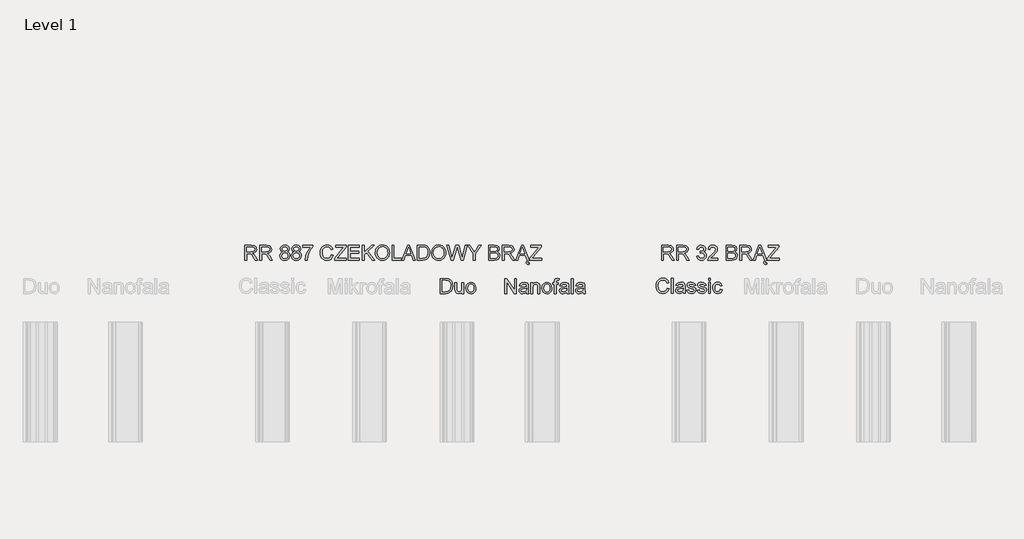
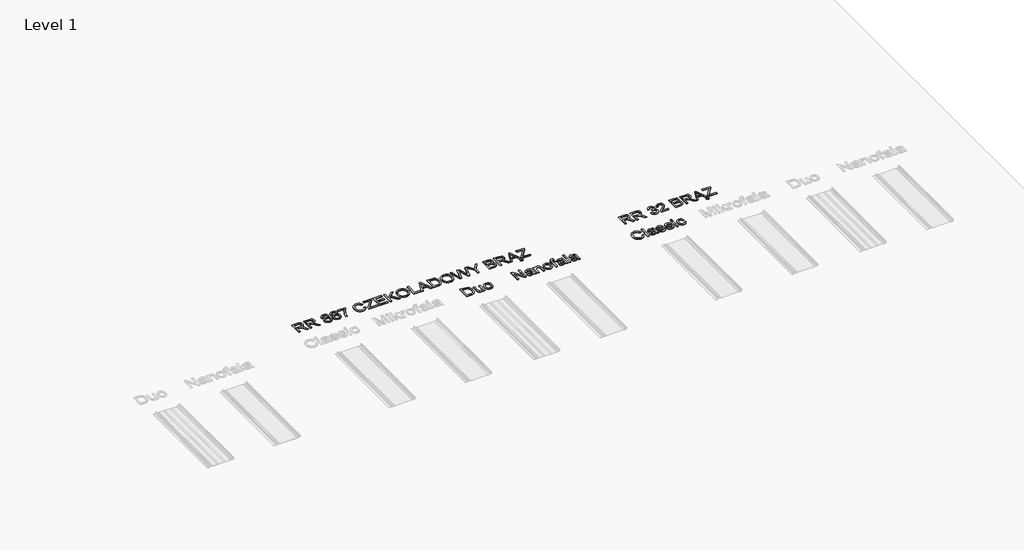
# One storey, part 22 of 24: 5 proxies.
"""IFC4 building model written with IfcOpenShell, lengths in millimetres."""

from ifc_helpers import new_model, si_unit, frame, origin, place, context, project, spatial, polyline, outline, extrude, element, save

model = new_model("IFC4")

# Units and contexts
model_context = context("Model", 3, world=origin())
ifc_project = project(units=[si_unit("LENGTHUNIT", "METRE", prefix="MILLI")], contexts=[model_context])

# Site, building, storey
site = spatial("IfcSite", under=ifc_project)
building = spatial("IfcBuilding", under=site)
storey = spatial("IfcBuildingStorey", under=building, Name="Level 1", Elevation=0.0)

# Proxies
placement = place(None, origin())
element("IfcBuildingElementProxy", 1, Name="150", ObjectType="150", at=placement, inside=storey, context=model_context, shape_type="SweptSolid", body=[
    extrude(outline(polyline([(1632.4192925, 1127.8407532), (1632.4192925, 1278.5252184), (1684.4010184, 1278.5252184), (1711.2931923, 1276.3547147), (1733.4396884, 1265.5757722), (1743.8599459, 1254.097854), (1751.2819651, 1239.8240325), (1755.7241402, 1223.0302195), (1757.2048653, 1203.9923262), (1753.1949515, 1173.5868793), (1742.8942557, 1151.6427183), (1729.135469, 1137.9759022), (1711.1276454, 1130.4159272), (1686.902616, 1127.8407532), (1632.4192925, 1127.8407532)]), holes=[polyline([(1651.2548507, 1146.6763114), (1684.5849594, 1146.6763114), (1708.8283829, 1149.3986381), (1722.8078987, 1157.0873718), (1734.2674229, 1175.7941713), (1738.3693071, 1204.2866318), (1736.3597517, 1224.8144471), (1730.3310855, 1239.9711853), (1721.4237427, 1250.3822458), (1710.7781575, 1256.6730279), (1684.0699246, 1259.6896603), (1651.2548507, 1259.6896603), (1651.2548507, 1146.6763114)])]), frame((0.0, 0.0, 600.0), z_axis=(0.0, 0.0, 1.0), x_axis=(1.0, 0.0, 0.0)), (0.0, 0.0, 1.0), 10.0),
    extrude(outline(polyline([(1851.382656, 1127.8407532), (1851.382656, 1146.8602524), (1836.630588, 1130.8297944), (1817.3903597, 1125.4863084), (1799.6768416, 1129.2387048), (1787.4631594, 1138.6564839), (1781.8529589, 1152.5256351), (1780.749313, 1170.0368181), (1780.749313, 1238.4996574), (1799.5848711, 1238.4996574), (1799.5848711, 1178.9027741), (1800.7253053, 1159.699334), (1808.1749157, 1148.4237508), (1822.2096138, 1144.3218666), (1837.9365691, 1148.5157213), (1848.3292355, 1159.9384573), (1851.382656, 1180.9261251), (1851.382656, 1238.4996574), (1870.2182142, 1238.4996574), (1870.2182142, 1127.8407532), (1851.382656, 1127.8407532)])), frame((0.0, 0.0, 600.0), z_axis=(0.0, 0.0, 1.0), x_axis=(1.0, 0.0, 0.0)), (0.0, 0.0, 1.0), 10.0),
    extrude(outline(polyline([(1891.4082171, 1183.1702053), (1895.4825102, 1209.850847), (1907.7053895, 1228.6036317), (1922.8069454, 1237.7914845), (1940.8883455, 1240.8541021), (1960.6757983, 1237.1246984), (1976.4809285, 1225.9364872), (1986.8414052, 1208.1723854), (1990.2948974, 1184.7153097), (1988.7681871, 1165.6866135), (1984.1880563, 1151.2012599), (1976.6878621, 1140.3533396), (1966.4009618, 1132.2369431), (1954.1826811, 1127.1739671), (1940.8883455, 1125.4863084), (1920.8617693, 1129.2019166), (1905.0750332, 1140.348741), (1894.8249211, 1158.4853234), (1891.4082171, 1183.1702053)]), holes=[polyline([(1910.2437753, 1183.2069935), (1912.4234761, 1166.1602615), (1918.9625785, 1154.0155572), (1928.8034219, 1146.7452892), (1940.8883455, 1144.3218666), (1952.9180867, 1146.7590848), (1962.740536, 1154.0707395), (1969.2796384, 1166.3763922), (1971.4593393, 1183.7956047), (1969.2658429, 1200.3456959), (1962.6853537, 1212.3248534), (1952.8491088, 1219.5951213), (1940.8883455, 1222.018544), (1928.8034219, 1219.6043184), (1918.9625785, 1212.3616416), (1912.4234761, 1200.2445284), (1910.2437753, 1183.2069935)])]), frame((0.0, 0.0, 600.0), z_axis=(0.0, 0.0, 1.0), x_axis=(1.0, 0.0, 0.0)), (0.0, 0.0, 1.0), 10.0),
])
element("IfcBuildingElementProxy", 2, Name="150", ObjectType="150", at=placement, inside=storey, context=model_context, shape_type="SweptSolid", body=[
    extrude(outline(polyline([(3920.9914008, 1182.8181359), (3939.8269589, 1177.9620936), (3931.1357468, 1156.013334), (3917.4965218, 1139.9782776), (3899.5806686, 1130.1696239), (3878.0595719, 1126.9000726), (3856.2119799, 1129.3740791), (3838.8617453, 1136.7960983), (3825.5628112, 1148.908613), (3815.8691206, 1165.4541057), (3809.950819, 1184.9058662), (3807.9780518, 1205.7371842), (3810.2083364, 1227.7089364), (3816.8991902, 1246.6824503), (3827.7011253, 1262.0553191), (3842.2646538, 1273.2251362), (3859.5367135, 1280.0263546), (3878.4642421, 1282.2934274), (3899.1162176, 1279.3595685), (3916.1905407, 1270.5579918), (3929.1537825, 1256.4313231), (3937.4725141, 1237.5221886), (3918.636956, 1233.0340282), (3912.1070506, 1246.7698222), (3903.1859122, 1256.1921998), (3891.7631762, 1261.6414519), (3877.7284781, 1263.4578692), (3861.5508674, 1261.4437153), (3848.2611303, 1255.4012536), (3838.1765651, 1245.9650804), (3831.61447, 1233.7697922), (3826.81361, 1205.7739724), (3828.2345542, 1188.373154), (3832.4973868, 1173.3267804), (3839.7630562, 1161.2096672), (3850.1925108, 1152.59663), (3862.6959001, 1147.4508806), (3876.1833737, 1145.7356308), (3891.9057305, 1148.0716815), (3905.0069281, 1155.0798335), (3914.8983552, 1166.6865104), (3920.9914008, 1182.8181359)])), frame((0.0, 0.0, 600.0), z_axis=(0.0, 0.0, 1.0), x_axis=(1.0, 0.0, 0.0)), (0.0, 0.0, 1.0), 10.0),
    extrude(outline(polyline([(3963.3714066, 1129.2545174), (3963.3714066, 1279.9389826), (3982.2069648, 1279.9389826), (3982.2069648, 1129.2545174), (3963.3714066, 1129.2545174)])), frame((0.0, 0.0, 600.0), z_axis=(0.0, 0.0, 1.0), x_axis=(1.0, 0.0, 0.0)), (0.0, 0.0, 1.0), 10.0),
    extrude(outline(polyline([(4081.0936451, 1143.381186), (4062.828304, 1130.6156808), (4042.6499766, 1126.9000726), (4026.9092257, 1129.1349558), (4015.2979502, 1135.8396051), (4008.1380469, 1146.0207393), (4005.7514125, 1158.685077), (4009.356656, 1173.5842978), (4018.8296174, 1184.4000285), (4032.0181869, 1190.580446), (4048.3153593, 1193.4131374), (4080.9832805, 1199.8878605), (4081.0936451, 1204.0817152), (4079.796861, 1212.4878188), (4075.9065089, 1217.9876546), (4067.2060997, 1222.0711448), (4055.084388, 1223.4323082), (4036.0281007, 1219.8086705), (4026.9414154, 1206.9511948), (4008.1058572, 1209.3056396), (4016.2544434, 1227.6997393), (4032.6619804, 1238.4786818), (4057.5124092, 1242.2678663), (4080.339487, 1238.9201402), (4093.2337509, 1230.5140366), (4099.0094982, 1217.7301372), (4099.9292032, 1201.2490239), (4099.9292032, 1177.8149408), (4100.8856964, 1145.0918373), (4104.6380928, 1129.2545174), (4085.8025346, 1129.2545174), (4081.0936451, 1143.381186)]), holes=[polyline([(4081.0936451, 1181.0523023), (4050.7065923, 1175.276555), (4034.5013904, 1172.2231344), (4027.1621446, 1167.2567275), (4024.5869706, 1160.0094522), (4030.197171, 1149.8191209), (4046.6598903, 1145.7356308), (4065.7161777, 1150.2421852), (4078.0034363, 1161.1498864), (4080.9832805, 1175.7180134), (4081.0936451, 1181.0523023)])]), frame((0.0, 0.0, 600.0), z_axis=(0.0, 0.0, 1.0), x_axis=(1.0, 0.0, 0.0)), (0.0, 0.0, 1.0), 10.0),
    extrude(outline(polyline([(4118.7647614, 1162.2167442), (4137.6003195, 1164.5711889), (4140.5709666, 1156.5145732), (4146.3191228, 1150.5916731), (4166.2951151, 1145.7356308), (4185.4985553, 1150.1870029), (4191.7525492, 1160.6348516), (4190.1798537, 1165.4357116), (4185.4617671, 1169.0961375), (4166.0743859, 1174.4672146), (4137.7106841, 1183.6826586), (4125.331455, 1194.4432069), (4121.1192061, 1209.6367334), (4124.5037205, 1223.6714315), (4133.7375586, 1234.3951916), (4145.7121175, 1239.9686039), (4161.9173194, 1242.2678663), (4184.8363677, 1238.5706523), (4199.4044947, 1228.564262), (4205.8792178, 1211.6600843), (4187.0436597, 1209.3056396), (4179.9619313, 1219.6983059), (4163.3888474, 1223.4323082), (4145.3626296, 1219.8638528), (4139.9547643, 1211.5497197), (4142.1988445, 1206.068278), (4149.2253906, 1201.9112115), (4165.4489866, 1197.9012977), (4193.0953185, 1189.0353416), (4205.9344001, 1178.9921632), (4210.5881074, 1162.6214144), (4205.1250597, 1144.5951966), (4189.3613162, 1131.5169917), (4166.0375977, 1126.9000726), (4147.0456897, 1129.1257587), (4133.1857356, 1135.8028169), (4123.9335034, 1146.8576709), (4118.7647614, 1162.2167442)])), frame((0.0, 0.0, 600.0), z_axis=(0.0, 0.0, 1.0), x_axis=(1.0, 0.0, 0.0)), (0.0, 0.0, 1.0), 10.0),
    extrude(outline(polyline([(4224.714776, 1162.2167442), (4243.5503341, 1164.5711889), (4246.5209812, 1156.5145732), (4252.2691374, 1150.5916731), (4272.2451298, 1145.7356308), (4291.4485699, 1150.1870029), (4297.7025638, 1160.6348516), (4296.1298683, 1165.4357116), (4291.4117817, 1169.0961375), (4272.0244006, 1174.4672146), (4243.6606987, 1183.6826586), (4231.2814696, 1194.4432069), (4227.0692207, 1209.6367334), (4230.4537351, 1223.6714315), (4239.6875732, 1234.3951916), (4251.6621321, 1239.9686039), (4267.867334, 1242.2678663), (4290.7863823, 1238.5706523), (4305.3545093, 1228.564262), (4311.8292324, 1211.6600843), (4292.9936743, 1209.3056396), (4285.9119459, 1219.6983059), (4269.338862, 1223.4323082), (4251.3126442, 1219.8638528), (4245.9047789, 1211.5497197), (4248.1488591, 1206.068278), (4255.1754052, 1201.9112115), (4271.3990012, 1197.9012977), (4299.0453331, 1189.0353416), (4311.8844147, 1178.9921632), (4316.538122, 1162.6214144), (4311.0750743, 1144.5951966), (4295.3113309, 1131.5169917), (4271.9876124, 1126.9000726), (4252.9957044, 1129.1257587), (4239.1357502, 1135.8028169), (4229.883518, 1146.8576709), (4224.714776, 1162.2167442)])), frame((0.0, 0.0, 600.0), z_axis=(0.0, 0.0, 1.0), x_axis=(1.0, 0.0, 0.0)), (0.0, 0.0, 1.0), 10.0),
    extrude(outline(polyline([(4337.7281249, 1261.1034245), (4337.7281249, 1279.9389826), (4356.5636831, 1279.9389826), (4356.5636831, 1261.1034245), (4337.7281249, 1261.1034245)])), frame((0.0, 0.0, 600.0), z_axis=(0.0, 0.0, 1.0), x_axis=(1.0, 0.0, 0.0)), (0.0, 0.0, 1.0), 10.0),
    extrude(outline(polyline([(4337.7281249, 1129.2545174), (4337.7281249, 1239.9134216), (4356.5636831, 1239.9134216), (4356.5636831, 1129.2545174), (4337.7281249, 1129.2545174)])), frame((0.0, 0.0, 600.0), z_axis=(0.0, 0.0, 1.0), x_axis=(1.0, 0.0, 0.0)), (0.0, 0.0, 1.0), 10.0),
    extrude(outline(polyline([(4455.4503634, 1169.2800785), (4474.2859215, 1166.9256337), (4469.034406, 1150.1732074), (4459.1659715, 1137.5134682), (4445.60952, 1129.5534215), (4429.2939535, 1126.9000726), (4409.2581803, 1130.6018852), (4393.5910059, 1141.7073229), (4383.4788495, 1159.7289422), (4380.1081307, 1184.1792993), (4381.547469, 1200.9409227), (4385.865484, 1215.467663), (4393.1311534, 1227.1985001), (4403.4134551, 1235.572414), (4415.7145094, 1240.5940032), (4429.0364361, 1242.2678663), (4444.9519309, 1239.9686039), (4457.6760494, 1233.0708164), (4466.8041214, 1221.9423861), (4471.9314767, 1206.9511948), (4453.0959186, 1204.59675), (4444.3587212, 1218.7050245), (4429.1835889, 1223.4323082), (4417.0112934, 1221.1054546), (4407.3497925, 1214.1248937), (4401.0452148, 1202.1135465), (4398.9436889, 1184.6943341), (4400.9992295, 1167.0405968), (4407.1658515, 1154.987863), (4416.6526084, 1148.0486888), (4428.6685541, 1145.7356308), (4438.4220255, 1147.1795676), (4446.4188604, 1151.5113781), (4452.2359944, 1158.8414269), (4455.4503634, 1169.2800785)])), frame((0.0, 0.0, 600.0), z_axis=(0.0, 0.0, 1.0), x_axis=(1.0, 0.0, 0.0)), (0.0, 0.0, 1.0), 10.0),
])
element("IfcBuildingElementProxy", 3, Name="150", ObjectType="150", at=placement, inside=storey, context=model_context, shape_type="SweptSolid", body=[
    extrude(outline(polyline([(2283.2193428, 1127.8407532), (2283.2193428, 1278.5252184), (2303.3792761, 1278.5252184), (2382.1060231, 1159.147511), (2382.1060231, 1278.5252184), (2400.9415812, 1278.5252184), (2400.9415812, 1127.8407532), (2380.7816479, 1127.8407532), (2302.0549009, 1247.2552488), (2302.0549009, 1127.8407532), (2283.2193428, 1127.8407532)])), frame((0.0, 0.0, 600.0), z_axis=(0.0, 0.0, 1.0), x_axis=(1.0, 0.0, 0.0)), (0.0, 0.0, 1.0), 10.0),
    extrude(outline(polyline([(2502.1827063, 1141.9674218), (2483.9173653, 1129.2019166), (2463.7390378, 1125.4863084), (2447.998287, 1127.7211916), (2436.3870115, 1134.4258409), (2429.2271081, 1144.6069751), (2426.8404737, 1157.2713128), (2430.4457173, 1172.1705336), (2439.9186786, 1182.9862643), (2453.1072482, 1189.1666818), (2469.4044205, 1191.9993732), (2502.0723417, 1198.4740963), (2502.1827063, 1202.667951), (2500.8859223, 1211.0740546), (2496.9955702, 1216.5738904), (2488.295161, 1220.6573806), (2476.1734493, 1222.018544), (2457.1171619, 1218.3949063), (2448.0304766, 1205.5374306), (2429.1949185, 1207.8918754), (2437.3435047, 1226.2859751), (2453.7510417, 1237.0649176), (2478.6014704, 1240.8541021), (2501.4285482, 1237.506376), (2514.3228122, 1229.1002724), (2520.0985595, 1216.316373), (2521.0182645, 1199.8352597), (2521.0182645, 1176.4011766), (2521.9747577, 1143.6780731), (2525.727154, 1127.8407532), (2506.8915959, 1127.8407532), (2502.1827063, 1141.9674218)]), holes=[polyline([(2502.1827063, 1179.6385381), (2471.7956535, 1173.8627908), (2455.5904516, 1170.8093702), (2448.2512058, 1165.8429633), (2445.6760319, 1158.595688), (2451.2862323, 1148.4053567), (2467.7489516, 1144.3218666), (2486.8052389, 1148.828421), (2499.0924976, 1159.7361222), (2502.0723417, 1174.3042492), (2502.1827063, 1179.6385381)])]), frame((0.0, 0.0, 600.0), z_axis=(0.0, 0.0, 1.0), x_axis=(1.0, 0.0, 0.0)), (0.0, 0.0, 1.0), 10.0),
    extrude(outline(polyline([(2546.9171569, 1127.8407532), (2546.9171569, 1238.4996574), (2565.7527151, 1238.4996574), (2565.7527151, 1223.0486136), (2580.1552952, 1236.40273), (2599.8185878, 1240.8541021), (2617.6056823, 1237.2672527), (2629.7457881, 1227.8494736), (2635.3927768, 1213.9987165), (2636.3860582, 1195.7885577), (2636.3860582, 1127.8407532), (2617.5505, 1127.8407532), (2617.5505, 1193.250172), (2615.3799962, 1209.9152263), (2607.7096566, 1218.7260001), (2594.7786045, 1222.018544), (2583.7467432, 1220.1699369), (2574.3427597, 1214.6241159), (2567.9002262, 1203.9095528), (2565.7527151, 1186.5547196), (2565.7527151, 1127.8407532), (2546.9171569, 1127.8407532)])), frame((0.0, 0.0, 600.0), z_axis=(0.0, 0.0, 1.0), x_axis=(1.0, 0.0, 0.0)), (0.0, 0.0, 1.0), 10.0),
    extrude(outline(polyline([(2657.5760611, 1183.1702053), (2661.6503542, 1209.850847), (2673.8732335, 1228.6036317), (2688.9747894, 1237.7914845), (2707.0561894, 1240.8541021), (2726.8436422, 1237.1246984), (2742.6487725, 1225.9364872), (2753.0092492, 1208.1723854), (2756.4627414, 1184.7153097), (2754.9360311, 1165.6866135), (2750.3559003, 1151.2012599), (2742.8557061, 1140.3533396), (2732.5688058, 1132.2369431), (2720.350525, 1127.1739671), (2707.0561894, 1125.4863084), (2687.0296133, 1129.2019166), (2671.2428772, 1140.348741), (2660.9927651, 1158.4853234), (2657.5760611, 1183.1702053)]), holes=[polyline([(2676.4116192, 1183.2069935), (2678.5913201, 1166.1602615), (2685.1304225, 1154.0155572), (2694.9712659, 1146.7452892), (2707.0561894, 1144.3218666), (2719.0859307, 1146.7590848), (2728.9083799, 1154.0707395), (2735.4474824, 1166.3763922), (2737.6271832, 1183.7956047), (2735.4336868, 1200.3456959), (2728.8531976, 1212.3248534), (2719.0169528, 1219.5951213), (2707.0561894, 1222.018544), (2694.9712659, 1219.6043184), (2685.1304225, 1212.3616416), (2678.5913201, 1200.2445284), (2676.4116192, 1183.2069935)])]), frame((0.0, 0.0, 600.0), z_axis=(0.0, 0.0, 1.0), x_axis=(1.0, 0.0, 0.0)), (0.0, 0.0, 1.0), 10.0),
    extrude(outline(polyline([(2782.3616338, 1127.8407532), (2782.3616338, 1219.6640992), (2765.8805205, 1219.6640992), (2765.8805205, 1238.4996574), (2782.3616338, 1238.4996574), (2782.3616338, 1249.6464818), (2784.3481966, 1265.355043), (2793.9867049, 1276.5754439), (2812.9694158, 1280.8796632), (2830.149505, 1278.819524), (2827.3903901, 1261.1611883), (2816.5378712, 1262.044105), (2804.6736769, 1258.9171081), (2801.197192, 1247.2552488), (2801.197192, 1238.4996574), (2822.3871949, 1238.4996574), (2822.3871949, 1219.6640992), (2801.197192, 1219.6640992), (2801.197192, 1127.8407532), (2782.3616338, 1127.8407532)])), frame((0.0, 0.0, 600.0), z_axis=(0.0, 0.0, 1.0), x_axis=(1.0, 0.0, 0.0)), (0.0, 0.0, 1.0), 10.0),
    extrude(outline(polyline([(2909.5016514, 1141.9674218), (2891.2363103, 1129.2019166), (2871.0579829, 1125.4863084), (2855.317232, 1127.7211916), (2843.7059565, 1134.4258409), (2836.5460532, 1144.6069751), (2834.1594188, 1157.2713128), (2837.7646623, 1172.1705336), (2847.2376237, 1182.9862643), (2860.4261932, 1189.1666818), (2876.7233656, 1191.9993732), (2909.3912868, 1198.4740963), (2909.5016514, 1202.667951), (2908.2048673, 1211.0740546), (2904.3145152, 1216.5738904), (2895.6141061, 1220.6573806), (2883.4923943, 1222.018544), (2864.436107, 1218.3949063), (2855.3494217, 1205.5374306), (2836.5138635, 1207.8918754), (2844.6624497, 1226.2859751), (2861.0699867, 1237.0649176), (2885.9204155, 1240.8541021), (2908.7474933, 1237.506376), (2921.6417572, 1229.1002724), (2927.4175045, 1216.316373), (2928.3372095, 1199.8352597), (2928.3372095, 1176.4011766), (2929.2937027, 1143.6780731), (2933.0460991, 1127.8407532), (2914.2105409, 1127.8407532), (2909.5016514, 1141.9674218)]), holes=[polyline([(2909.5016514, 1179.6385381), (2879.1145986, 1173.8627908), (2862.9093967, 1170.8093702), (2855.5701509, 1165.8429633), (2852.9949769, 1158.595688), (2858.6051773, 1148.4053567), (2875.0678966, 1144.3218666), (2894.124184, 1148.828421), (2906.4114426, 1159.7361222), (2909.3912868, 1174.3042492), (2909.5016514, 1179.6385381)])]), frame((0.0, 0.0, 600.0), z_axis=(0.0, 0.0, 1.0), x_axis=(1.0, 0.0, 0.0)), (0.0, 0.0, 1.0), 10.0),
    extrude(outline(polyline([(2954.236102, 1127.8407532), (2954.236102, 1278.5252184), (2973.0716601, 1278.5252184), (2973.0716601, 1127.8407532), (2954.236102, 1127.8407532)])), frame((0.0, 0.0, 600.0), z_axis=(0.0, 0.0, 1.0), x_axis=(1.0, 0.0, 0.0)), (0.0, 0.0, 1.0), 10.0),
    extrude(outline(polyline([(3071.9583404, 1141.9674218), (3053.6929994, 1129.2019166), (3033.514672, 1125.4863084), (3017.7739211, 1127.7211916), (3006.1626456, 1134.4258409), (2999.0027423, 1144.6069751), (2996.6161078, 1157.2713128), (3000.2213514, 1172.1705336), (3009.6943128, 1182.9862643), (3022.8828823, 1189.1666818), (3039.1800547, 1191.9993732), (3071.8479758, 1198.4740963), (3071.9583404, 1202.667951), (3070.6615564, 1211.0740546), (3066.7712043, 1216.5738904), (3058.0707951, 1220.6573806), (3045.9490834, 1222.018544), (3026.892796, 1218.3949063), (3017.8061108, 1205.5374306), (2998.9705526, 1207.8918754), (3007.1191388, 1226.2859751), (3023.5266758, 1237.0649176), (3048.3771046, 1240.8541021), (3071.2041824, 1237.506376), (3084.0984463, 1229.1002724), (3089.8741936, 1216.316373), (3090.7938986, 1199.8352597), (3090.7938986, 1176.4011766), (3091.7503918, 1143.6780731), (3095.5027881, 1127.8407532), (3076.66723, 1127.8407532), (3071.9583404, 1141.9674218)]), holes=[polyline([(3071.9583404, 1179.6385381), (3041.5712876, 1173.8627908), (3025.3660858, 1170.8093702), (3018.02684, 1165.8429633), (3015.451666, 1158.595688), (3021.0618664, 1148.4053567), (3037.5245857, 1144.3218666), (3056.580873, 1148.828421), (3068.8681317, 1159.7361222), (3071.8479758, 1174.3042492), (3071.9583404, 1179.6385381)])]), frame((0.0, 0.0, 600.0), z_axis=(0.0, 0.0, 1.0), x_axis=(1.0, 0.0, 0.0)), (0.0, 0.0, 1.0), 10.0),
])
element("IfcBuildingElementProxy", 4, Name="150 Blue", ObjectType="150 Blue", at=placement, inside=storey, context=model_context, shape_type="SweptSolid", body=[
    extrude(outline(polyline([(-336.4118342, 1464.3485888), (-336.4118342, 1615.033054), (-271.4806621, 1615.033054), (-241.3327325, 1610.967958), (-232.0529092, 1605.3393635), (-224.8516192, 1596.583772), (-220.2301016, 1585.7266546), (-218.6895957, 1573.7934824), (-221.2417771, 1558.9494439), (-228.8983211, 1546.6437911), (-241.8891541, 1537.6214852), (-260.4442022, 1532.6274871), (-249.7388361, 1524.5708714), (-234.4717333, 1505.1834903), (-209.3453931, 1464.3485888), (-231.2343718, 1464.3485888), (-250.8424821, 1495.5817702), (-265.0059389, 1516.2567383), (-274.9571469, 1526.0240053), (-283.9150735, 1529.6108548), (-294.8411687, 1530.2730423), (-317.576276, 1530.2730423), (-317.576276, 1464.3485888), (-336.4118342, 1464.3485888)]), holes=[polyline([(-317.576276, 1549.1086005), (-275.4169994, 1549.1086005), (-253.9142968, 1551.775745), (-241.7006145, 1560.3106073), (-237.5251539, 1573.0945066), (-239.5163152, 1582.2823594), (-245.4897991, 1589.6859846), (-255.7675023, 1594.5696181), (-270.6713217, 1596.1974959), (-317.576276, 1596.1974959), (-317.576276, 1549.1086005)])]), frame((0.0, 0.0, 600.0), z_axis=(0.0, 0.0, 1.0), x_axis=(1.0, 0.0, 0.0)), (0.0, 0.0, 1.0), 10.0),
    extrude(outline(polyline([(-185.727369, 1464.3485888), (-185.727369, 1615.033054), (-120.7961968, 1615.033054), (-90.6482673, 1610.967958), (-81.368444, 1605.3393635), (-74.1671539, 1596.583772), (-69.5456364, 1585.7266546), (-68.0051305, 1573.7934824), (-70.5573119, 1558.9494439), (-78.2138559, 1546.6437911), (-91.2046888, 1537.6214852), (-109.759737, 1532.6274871), (-99.0543709, 1524.5708714), (-83.7872681, 1505.1834903), (-58.6609278, 1464.3485888), (-80.5499066, 1464.3485888), (-100.1580169, 1495.5817702), (-114.3214737, 1516.2567383), (-124.2726817, 1526.0240053), (-133.2306083, 1529.6108548), (-144.1567035, 1530.2730423), (-166.8918108, 1530.2730423), (-166.8918108, 1464.3485888), (-185.727369, 1464.3485888)]), holes=[polyline([(-166.8918108, 1549.1086005), (-124.7325342, 1549.1086005), (-103.2298316, 1551.775745), (-91.0161493, 1560.3106073), (-86.8406887, 1573.0945066), (-88.83185, 1582.2823594), (-94.8053339, 1589.6859846), (-105.0830371, 1594.5696181), (-119.9868564, 1596.1974959), (-166.8918108, 1596.1974959), (-166.8918108, 1549.1086005)])]), frame((0.0, 0.0, 600.0), z_axis=(0.0, 0.0, 1.0), x_axis=(1.0, 0.0, 0.0)), (0.0, 0.0, 1.0), 10.0),
    extrude(outline(polyline([(44.198878, 1547.3427669), (27.0371829, 1559.0414144), (21.4637707, 1577.2515731), (24.4987972, 1591.97605), (33.6038765, 1604.143747), (47.7581363, 1612.3107273), (65.9407039, 1615.033054), (84.2336361, 1612.2463479), (98.5718369, 1603.8862296), (107.8424632, 1591.5253945), (110.9326719, 1576.7365383), (105.4328361, 1558.9862321), (88.7493876, 1547.3427669), (100.342269, 1541.369283), (108.7805623, 1532.5723048), (113.9263117, 1521.3748966), (115.6415615, 1508.2001226), (112.238653, 1490.192299), (102.0299276, 1475.3114723), (86.2661842, 1465.3234761), (66.1982213, 1461.994144), (46.1302585, 1465.3372717), (30.366515, 1475.3666546), (20.1577896, 1490.3900355), (16.7548812, 1508.7151574), (18.5391088, 1522.4003677), (23.8917919, 1533.6575567), (32.5370188, 1542.1004485), (44.198878, 1547.3427669)]), holes=[polyline([(40.2993289, 1576.6997501), (41.9685934, 1568.4775875), (46.9763871, 1561.9108939), (55.175557, 1557.6066746), (66.4189505, 1556.1719348), (77.4002281, 1557.5974775), (85.4752379, 1561.8741057), (90.4416448, 1568.2200702), (92.0971138, 1575.8536216), (90.3864625, 1583.77688), (85.2545087, 1590.3297781), (77.0691343, 1594.7305664), (66.1982213, 1596.1974959), (55.2583305, 1594.7627561), (47.0867517, 1590.4585368), (41.9961846, 1584.1493605), (40.2993289, 1576.6997501)]), polyline([(35.5904393, 1509.377345), (38.7358304, 1495.1954941), (49.8642607, 1484.5820985), (66.3453741, 1480.8297022), (79.1660616, 1482.8024694), (88.7861758, 1488.720771), (94.8010464, 1497.6832961), (96.8060033, 1508.7887338), (94.7366671, 1520.0827111), (88.5286584, 1529.2429728), (78.6878151, 1535.3130257), (65.7199747, 1537.3363767), (53.0786297, 1535.3406168), (43.5550845, 1529.3533374), (37.5816006, 1520.3678196), (35.5904393, 1509.377345)])]), frame((0.0, 0.0, 600.0), z_axis=(0.0, 0.0, 1.0), x_axis=(1.0, 0.0, 0.0)), (0.0, 0.0, 1.0), 10.0),
    extrude(outline(polyline([(159.5666717, 1547.3427669), (142.4049766, 1559.0414144), (136.8315644, 1577.2515731), (139.8665909, 1591.97605), (148.9716702, 1604.143747), (163.12593, 1612.3107273), (181.3084976, 1615.033054), (199.6014298, 1612.2463479), (213.9396306, 1603.8862296), (223.2102569, 1591.5253945), (226.3004656, 1576.7365383), (220.8006298, 1558.9862321), (204.1171813, 1547.3427669), (215.7100627, 1541.369283), (224.1483559, 1532.5723048), (229.2941054, 1521.3748966), (231.0093552, 1508.2001226), (227.6064467, 1490.192299), (217.3977213, 1475.3114723), (201.6339778, 1465.3234761), (181.566015, 1461.994144), (161.4980522, 1465.3372717), (145.7343087, 1475.3666546), (135.5255833, 1490.3900355), (132.1226749, 1508.7151574), (133.9069025, 1522.4003677), (139.2595856, 1533.6575567), (147.9048124, 1542.1004485), (159.5666717, 1547.3427669)]), holes=[polyline([(155.6671225, 1576.6997501), (157.3363871, 1568.4775875), (162.3441808, 1561.9108939), (170.5433507, 1557.6066746), (181.7867442, 1556.1719348), (192.7680218, 1557.5974775), (200.8430316, 1561.8741057), (205.8094385, 1568.2200702), (207.4649075, 1575.8536216), (205.7542562, 1583.77688), (200.6223024, 1590.3297781), (192.436928, 1594.7305664), (181.566015, 1596.1974959), (170.6261242, 1594.7627561), (162.4545454, 1590.4585368), (157.3639782, 1584.1493605), (155.6671225, 1576.6997501)]), polyline([(150.958233, 1509.377345), (154.1036241, 1495.1954941), (165.2320544, 1484.5820985), (181.7131678, 1480.8297022), (194.5338553, 1482.8024694), (204.1539695, 1488.720771), (210.1688401, 1497.6832961), (212.173797, 1508.7887338), (210.1044608, 1520.0827111), (203.8964521, 1529.2429728), (194.0556087, 1535.3130257), (181.0877684, 1537.3363767), (168.4464234, 1535.3406168), (158.9228782, 1529.3533374), (152.9493943, 1520.3678196), (150.958233, 1509.377345)])]), frame((0.0, 0.0, 600.0), z_axis=(0.0, 0.0, 1.0), x_axis=(1.0, 0.0, 0.0)), (0.0, 0.0, 1.0), 10.0),
    extrude(outline(polyline([(247.4904685, 1593.8430511), (247.4904685, 1612.6786093), (346.3771488, 1612.6786093), (346.3771488, 1597.4482947), (318.3261467, 1556.9260929), (306.0158954, 1531.4640603), (296.8602323, 1505.2938549), (289.8704744, 1464.3485888), (271.0349162, 1464.3485888), (278.5213148, 1506.8389593), (287.2355196, 1531.2985134), (299.0675243, 1554.8659537), (327.5415907, 1593.8430511), (247.4904685, 1593.8430511)])), frame((0.0, 0.0, 600.0), z_axis=(0.0, 0.0, 1.0), x_axis=(1.0, 0.0, 0.0)), (0.0, 0.0, 1.0), 10.0),
    extrude(outline(polyline([(534.7327304, 1517.9122073), (553.5682885, 1513.056165), (544.8770764, 1491.1074054), (531.2378514, 1475.072349), (513.3219983, 1465.2636953), (491.8009015, 1461.994144), (469.9533096, 1464.4681505), (452.603075, 1471.8901697), (439.3041408, 1484.0026844), (429.6104503, 1500.5481771), (423.6921487, 1519.9999376), (421.7193815, 1540.8312556), (423.9496661, 1562.8030078), (430.6405198, 1581.7765217), (441.4424549, 1597.1493905), (456.0059834, 1608.3192076), (473.2780431, 1615.120426), (492.2055717, 1617.3874988), (512.8575472, 1614.4536399), (529.9318703, 1605.6520632), (542.8951121, 1591.5253945), (551.2138438, 1572.61626), (532.3782856, 1568.1280997), (525.8483802, 1581.8638936), (516.9272418, 1591.2862712), (505.5045059, 1596.7355233), (491.4698077, 1598.5519407), (475.292197, 1596.5377867), (462.0024599, 1590.495325), (451.9178947, 1581.0591518), (445.3557996, 1568.8638636), (440.5549396, 1540.8680438), (441.9758838, 1523.4672254), (446.2387164, 1508.4208518), (453.5043858, 1496.3037386), (463.9338404, 1487.6907014), (476.4372297, 1482.544952), (489.9247034, 1480.8297022), (505.6470601, 1483.1657529), (518.7482577, 1490.1739049), (528.6396848, 1501.7805818), (534.7327304, 1517.9122073)])), frame((0.0, 0.0, 600.0), z_axis=(0.0, 0.0, 1.0), x_axis=(1.0, 0.0, 0.0)), (0.0, 0.0, 1.0), 10.0),
    extrude(outline(polyline([(567.6949571, 1464.3485888), (567.6949571, 1483.8831228), (644.7294469, 1578.2816427), (659.3711503, 1596.1974959), (577.1127362, 1596.1974959), (577.1127362, 1615.033054), (683.0627508, 1615.033054), (683.0627508, 1596.1974959), (598.7441975, 1492.8962316), (590.7979464, 1483.184147), (685.4171956, 1483.184147), (685.4171956, 1464.3485888), (567.6949571, 1464.3485888)])), frame((0.0, 0.0, 600.0), z_axis=(0.0, 0.0, 1.0), x_axis=(1.0, 0.0, 0.0)), (0.0, 0.0, 1.0), 10.0),
    extrude(outline(polyline([(706.6071985, 1464.3485888), (706.6071985, 1615.033054), (814.9116579, 1615.033054), (814.9116579, 1596.1974959), (725.4427567, 1596.1974959), (725.4427567, 1551.4630453), (810.2027684, 1551.4630453), (810.2027684, 1532.6274871), (725.4427567, 1532.6274871), (725.4427567, 1483.184147), (817.2661027, 1483.184147), (817.2661027, 1464.3485888), (706.6071985, 1464.3485888)])), frame((0.0, 0.0, 600.0), z_axis=(0.0, 0.0, 1.0), x_axis=(1.0, 0.0, 0.0)), (0.0, 0.0, 1.0), 10.0),
    extrude(outline(polyline([(845.5194399, 1464.3485888), (845.5194399, 1615.033054), (864.3549981, 1615.033054), (864.3549981, 1541.272714), (941.610217, 1615.033054), (967.9505679, 1615.033054), (903.0561839, 1553.081726), (970.3050127, 1464.3485888), (947.2755998, 1464.3485888), (889.7020675, 1540.353009), (864.3549981, 1516.1463737), (864.3549981, 1464.3485888), (845.5194399, 1464.3485888)])), frame((0.0, 0.0, 600.0), z_axis=(0.0, 0.0, 1.0), x_axis=(1.0, 0.0, 0.0)), (0.0, 0.0, 1.0), 10.0),
    extrude(outline(polyline([(977.368347, 1537.7042587), (982.3899362, 1571.0251704), (988.6669227, 1584.643702), (997.4547039, 1596.2342841), (1020.4565257, 1612.0991951), (1049.289277, 1617.3874988), (1069.0537372, 1614.9042953), (1086.7764523, 1607.4546849), (1101.4917321, 1595.5628994), (1112.2338864, 1579.7531707), (1118.80058, 1560.7888538), (1120.9894779, 1539.433304), (1118.6856169, 1517.7926457), (1111.7740339, 1498.5616144), (1100.6364065, 1482.7242945), (1085.6544123, 1471.2647703), (1068.0834485, 1464.3118006), (1049.1789124, 1461.994144), (1029.1109496, 1464.5555224), (1011.2870669, 1472.2396576), (996.6085753, 1484.3521723), (985.9767857, 1500.1986892), (979.5204566, 1518.4318406), (977.368347, 1537.7042587)]), holes=[polyline([(996.2039051, 1537.5203177), (999.9700971, 1513.9482788), (1011.2686728, 1495.9864404), (1028.2510254, 1484.6188867), (1049.0685478, 1480.8297022), (1070.1895729, 1484.6556749), (1087.1995166, 1496.1335932), (1098.415319, 1514.6472546), (1102.1539197, 1539.5804568), (1100.5536331, 1556.2547083), (1095.752773, 1570.6664854), (1087.8754998, 1582.4525048), (1077.0459736, 1591.249483), (1063.9815642, 1596.7263263), (1049.3996416, 1598.5519407), (1029.1385407, 1595.0340691), (1011.9124663, 1584.4804543), (1000.1310454, 1565.704677), (996.2039051, 1537.5203177)])]), frame((0.0, 0.0, 600.0), z_axis=(0.0, 0.0, 1.0), x_axis=(1.0, 0.0, 0.0)), (0.0, 0.0, 1.0), 10.0),
    extrude(outline(polyline([(1146.8883704, 1464.3485888), (1146.8883704, 1615.033054), (1165.7239285, 1615.033054), (1165.7239285, 1483.184147), (1241.0661611, 1483.184147), (1241.0661611, 1464.3485888), (1146.8883704, 1464.3485888)])), frame((0.0, 0.0, 600.0), z_axis=(0.0, 0.0, 1.0), x_axis=(1.0, 0.0, 0.0)), (0.0, 0.0, 1.0), 10.0),
    extrude(outline(polyline([(1244.7449811, 1464.3485888), (1304.8936873, 1615.033054), (1320.9333423, 1615.033054), (1381.0452603, 1464.3485888), (1361.1428443, 1464.3485888), (1343.925967, 1511.4374842), (1281.8274862, 1511.4374842), (1264.6106088, 1464.3485888), (1244.7449811, 1464.3485888)]), holes=[polyline([(1288.7436677, 1530.2730423), (1337.0465737, 1530.2730423), (1323.4349398, 1567.3187593), (1312.8767266, 1596.1974959), (1303.4957357, 1570.5561208), (1288.7436677, 1530.2730423)])]), frame((0.0, 0.0, 600.0), z_axis=(0.0, 0.0, 1.0), x_axis=(1.0, 0.0, 0.0)), (0.0, 0.0, 1.0), 10.0),
    extrude(outline(polyline([(1401.1684054, 1464.3485888), (1401.1684054, 1615.033054), (1453.1501313, 1615.033054), (1480.0423052, 1612.8625503), (1502.1888013, 1602.0836078), (1512.6090588, 1590.6056896), (1520.0310781, 1576.3318681), (1524.4732531, 1559.5380551), (1525.9539782, 1540.5001618), (1521.9440644, 1510.0947149), (1511.6433686, 1488.1505539), (1497.8845819, 1474.4837378), (1479.8767583, 1466.9237628), (1455.6517289, 1464.3485888), (1401.1684054, 1464.3485888)]), holes=[polyline([(1420.0039636, 1483.184147), (1453.3340723, 1483.184147), (1477.5774958, 1485.9064737), (1491.5570116, 1493.5952074), (1503.0165358, 1512.3020069), (1507.11842, 1540.7944674), (1505.1088646, 1561.3222827), (1499.0801984, 1576.4790209), (1490.1728556, 1586.8900814), (1479.5272704, 1593.1808635), (1452.8190375, 1596.1974959), (1420.0039636, 1596.1974959), (1420.0039636, 1483.184147)])]), frame((0.0, 0.0, 600.0), z_axis=(0.0, 0.0, 1.0), x_axis=(1.0, 0.0, 0.0)), (0.0, 0.0, 1.0), 10.0),
    extrude(outline(polyline([(1544.7895363, 1537.7042587), (1549.8111256, 1571.0251704), (1556.0881121, 1584.643702), (1564.8758933, 1596.2342841), (1587.877715, 1612.0991951), (1616.7104664, 1617.3874988), (1636.4749266, 1614.9042953), (1654.1976417, 1607.4546849), (1668.9129215, 1595.5628994), (1679.6550758, 1579.7531707), (1686.2217694, 1560.7888538), (1688.4106673, 1539.433304), (1686.1068063, 1517.7926457), (1679.1952233, 1498.5616144), (1668.0575959, 1482.7242945), (1653.0756016, 1471.2647703), (1635.5046378, 1464.3118006), (1616.6001018, 1461.994144), (1596.532139, 1464.5555224), (1578.7082563, 1472.2396576), (1564.0297647, 1484.3521723), (1553.397975, 1500.1986892), (1546.941646, 1518.4318406), (1544.7895363, 1537.7042587)]), holes=[polyline([(1563.6250945, 1537.5203177), (1567.3912864, 1513.9482788), (1578.6898622, 1495.9864404), (1595.6722148, 1484.6188867), (1616.4897372, 1480.8297022), (1637.6107622, 1484.6556749), (1654.620706, 1496.1335932), (1665.8365083, 1514.6472546), (1669.5751091, 1539.5804568), (1667.9748224, 1556.2547083), (1663.1739624, 1570.6664854), (1655.2966892, 1582.4525048), (1644.4671629, 1591.249483), (1631.4027536, 1596.7263263), (1616.820831, 1598.5519407), (1596.5597301, 1595.0340691), (1579.3336557, 1584.4804543), (1567.5522348, 1565.704677), (1563.6250945, 1537.5203177)])]), frame((0.0, 0.0, 600.0), z_axis=(0.0, 0.0, 1.0), x_axis=(1.0, 0.0, 0.0)), (0.0, 0.0, 1.0), 10.0),
    extrude(outline(polyline([(1741.27531, 1464.3485888), (1700.1828911, 1615.033054), (1719.6070604, 1615.033054), (1743.4458137, 1515.9992209), (1750.8034536, 1485.4282271), (1758.6761283, 1512.4675538), (1788.5481463, 1615.033054), (1816.5439662, 1615.033054), (1838.2490039, 1540.6841028), (1854.3990235, 1485.4282271), (1861.5359342, 1515.1163041), (1885.5586285, 1615.033054), (1905.019586, 1615.033054), (1863.9639553, 1464.3485888), (1843.804022, 1464.3485888), (1807.6412219, 1580.5992993), (1802.6012386, 1596.8228953), (1796.9358558, 1577.2883613), (1764.0104173, 1464.3485888), (1741.27531, 1464.3485888)])), frame((0.0, 0.0, 600.0), z_axis=(0.0, 0.0, 1.0), x_axis=(1.0, 0.0, 0.0)), (0.0, 0.0, 1.0), 10.0),
    extrude(outline(polyline([(1966.23515, 1464.3485888), (1966.23515, 1528.176115), (1907.3740308, 1615.033054), (1929.5573151, 1615.033054), (1960.9744375, 1568.6431344), (1977.0508807, 1544.951534), (1993.2009003, 1570.3353916), (2021.7117549, 1615.033054), (2043.9318274, 1615.033054), (1985.0707082, 1528.176115), (1985.0707082, 1464.3485888), (1966.23515, 1464.3485888)])), frame((0.0, 0.0, 600.0), z_axis=(0.0, 0.0, 1.0), x_axis=(1.0, 0.0, 0.0)), (0.0, 0.0, 1.0), 10.0),
    extrude(outline(polyline([(2119.27406, 1464.3485888), (2119.27406, 1615.033054), (2176.7740158, 1615.033054), (2204.9353826, 1610.600076), (2214.3991469, 1604.97608), (2221.5636488, 1596.9700481), (2227.5785194, 1577.6930315), (2222.5201419, 1560.0898781), (2207.234645, 1546.7541557), (2217.9078214, 1541.1807435), (2225.7942917, 1532.7010635), (2230.6641296, 1521.8761358), (2232.2874089, 1509.2669804), (2227.8544309, 1489.0150766), (2216.8731533, 1474.5941024), (2200.4840104, 1466.9421569), (2176.3325575, 1464.3485888), (2119.27406, 1464.3485888)]), holes=[polyline([(2138.1096182, 1553.81749), (2172.5065847, 1553.81749), (2192.5929416, 1555.4361708), (2204.6778652, 1562.4075346), (2208.7429612, 1574.6763992), (2204.9537767, 1586.9636578), (2194.1012578, 1594.2293272), (2169.8946225, 1596.1974959), (2138.1096182, 1596.1974959), (2138.1096182, 1553.81749)]), polyline([(2138.1096182, 1483.184147), (2176.7372276, 1483.184147), (2190.7167435, 1483.919911), (2202.5441496, 1488.0217952), (2210.3800361, 1496.3911106), (2213.4518508, 1509.0830394), (2209.8466072, 1523.7247428), (2198.1663539, 1532.4619402), (2174.8978177, 1534.9819319), (2138.1096182, 1534.9819319), (2138.1096182, 1483.184147)])]), frame((0.0, 0.0, 600.0), z_axis=(0.0, 0.0, 1.0), x_axis=(1.0, 0.0, 0.0)), (0.0, 0.0, 1.0), 10.0),
    extrude(outline(polyline([(2258.1863014, 1464.3485888), (2258.1863014, 1615.033054), (2323.1174735, 1615.033054), (2353.265403, 1610.967958), (2362.5452264, 1605.3393635), (2369.7465164, 1596.583772), (2374.368034, 1585.7266546), (2375.9085398, 1573.7934824), (2373.3563585, 1558.9494439), (2365.6998145, 1546.6437911), (2352.7089815, 1537.6214852), (2334.1539334, 1532.6274871), (2344.8592994, 1524.5708714), (2360.1264022, 1505.1834903), (2385.2527425, 1464.3485888), (2363.3637638, 1464.3485888), (2343.7556535, 1495.5817702), (2329.5921966, 1516.2567383), (2319.6409887, 1526.0240053), (2310.6830621, 1529.6108548), (2299.7569668, 1530.2730423), (2277.0218595, 1530.2730423), (2277.0218595, 1464.3485888), (2258.1863014, 1464.3485888)]), holes=[polyline([(2277.0218595, 1549.1086005), (2319.1811362, 1549.1086005), (2340.6838388, 1551.775745), (2352.897521, 1560.3106073), (2357.0729817, 1573.0945066), (2355.0818204, 1582.2823594), (2349.1083365, 1589.6859846), (2338.8306332, 1594.5696181), (2323.9268139, 1596.1974959), (2277.0218595, 1596.1974959), (2277.0218595, 1549.1086005)])]), frame((0.0, 0.0, 600.0), z_axis=(0.0, 0.0, 1.0), x_axis=(1.0, 0.0, 0.0)), (0.0, 0.0, 1.0), 10.0),
    extrude(outline(polyline([(2391.3595836, 1464.3485888), (2451.5082898, 1615.033054), (2467.5479448, 1615.033054), (2527.6598628, 1464.3485888), (2524.7535951, 1464.3485888), (2515.6853039, 1455.2435094), (2512.4663364, 1444.2622319), (2514.7655989, 1436.7942274), (2522.2152093, 1433.7408068), (2526.9240989, 1434.4029944), (2531.3018946, 1436.168828), (2531.3018946, 1423.1825936), (2518.094931, 1419.6141382), (2509.43131, 1421.1224544), (2503.2508925, 1425.2795209), (2499.5536784, 1431.3679679), (2498.3396678, 1438.7440019), (2502.0184878, 1452.1165125), (2512.4295482, 1464.3485888), (2507.7574469, 1464.3485888), (2490.5405695, 1511.4374842), (2428.4420887, 1511.4374842), (2411.2252114, 1464.3485888), (2391.3595836, 1464.3485888)]), holes=[polyline([(2435.3582703, 1530.2730423), (2483.6611762, 1530.2730423), (2470.0495424, 1567.3187593), (2459.4913291, 1596.1974959), (2450.1103383, 1570.5561208), (2435.3582703, 1530.2730423)])]), frame((0.0, 0.0, 600.0), z_axis=(0.0, 0.0, 1.0), x_axis=(1.0, 0.0, 0.0)), (0.0, 0.0, 1.0), 10.0),
    extrude(outline(polyline([(2536.0107841, 1464.3485888), (2536.0107841, 1483.8831228), (2613.0452739, 1578.2816427), (2627.6869773, 1596.1974959), (2545.4285632, 1596.1974959), (2545.4285632, 1615.033054), (2651.3785778, 1615.033054), (2651.3785778, 1596.1974959), (2567.0600245, 1492.8962316), (2559.1137734, 1483.184147), (2653.7330226, 1483.184147), (2653.7330226, 1464.3485888), (2536.0107841, 1464.3485888)])), frame((0.0, 0.0, 600.0), z_axis=(0.0, 0.0, 1.0), x_axis=(1.0, 0.0, 0.0)), (0.0, 0.0, 1.0), 10.0),
])
element("IfcBuildingElementProxy", 5, Name="150 Blue", ObjectType="150 Blue", at=placement, inside=storey, context=model_context, shape_type="SweptSolid", body=[
    extrude(outline(polyline([(3863.5881658, 1464.3485888), (3863.5881658, 1615.033054), (3928.5193379, 1615.033054), (3958.6672675, 1610.967958), (3967.9470908, 1605.3393635), (3975.1483808, 1596.583772), (3979.7698984, 1585.7266546), (3981.3104043, 1573.7934824), (3978.7582229, 1558.9494439), (3971.1016789, 1546.6437911), (3958.1108459, 1537.6214852), (3939.5557978, 1532.6274871), (3950.2611639, 1524.5708714), (3965.5282667, 1505.1834903), (3990.6546069, 1464.3485888), (3968.7656282, 1464.3485888), (3949.1575179, 1495.5817702), (3934.9940611, 1516.2567383), (3925.0428531, 1526.0240053), (3916.0849265, 1529.6108548), (3905.1588313, 1530.2730423), (3882.423724, 1530.2730423), (3882.423724, 1464.3485888), (3863.5881658, 1464.3485888)]), holes=[polyline([(3882.423724, 1549.1086005), (3924.5830006, 1549.1086005), (3946.0857032, 1551.775745), (3958.2993855, 1560.3106073), (3962.4748461, 1573.0945066), (3960.4836848, 1582.2823594), (3954.5102009, 1589.6859846), (3944.2324977, 1594.5696181), (3929.3286783, 1596.1974959), (3882.423724, 1596.1974959), (3882.423724, 1549.1086005)])]), frame((0.0, 0.0, 600.0), z_axis=(0.0, 0.0, 1.0), x_axis=(1.0, 0.0, 0.0)), (0.0, 0.0, 1.0), 10.0),
    extrude(outline(polyline([(4014.272631, 1464.3485888), (4014.272631, 1615.033054), (4079.2038032, 1615.033054), (4109.3517327, 1610.967958), (4118.631556, 1605.3393635), (4125.8328461, 1596.583772), (4130.4543636, 1585.7266546), (4131.9948695, 1573.7934824), (4129.4426881, 1558.9494439), (4121.7861441, 1546.6437911), (4108.7953112, 1537.6214852), (4090.240263, 1532.6274871), (4100.9456291, 1524.5708714), (4116.2127319, 1505.1834903), (4141.3390722, 1464.3485888), (4119.4500934, 1464.3485888), (4099.8419831, 1495.5817702), (4085.6785263, 1516.2567383), (4075.7273183, 1526.0240053), (4066.7693917, 1529.6108548), (4055.8432965, 1530.2730423), (4033.1081892, 1530.2730423), (4033.1081892, 1464.3485888), (4014.272631, 1464.3485888)]), holes=[polyline([(4033.1081892, 1549.1086005), (4075.2674658, 1549.1086005), (4096.7701684, 1551.775745), (4108.9838507, 1560.3106073), (4113.1593113, 1573.0945066), (4111.16815, 1582.2823594), (4105.1946661, 1589.6859846), (4094.9169629, 1594.5696181), (4080.0131436, 1596.1974959), (4033.1081892, 1596.1974959), (4033.1081892, 1549.1086005)])]), frame((0.0, 0.0, 600.0), z_axis=(0.0, 0.0, 1.0), x_axis=(1.0, 0.0, 0.0)), (0.0, 0.0, 1.0), 10.0),
    extrude(outline(polyline([(4216.7548812, 1504.3741499), (4235.5904393, 1506.7285947), (4239.8072867, 1494.8919915), (4245.9831057, 1486.8997551), (4254.4213989, 1482.3472154), (4265.4256691, 1480.8297022), (4278.3383272, 1482.9174325), (4288.3079292, 1489.1806235), (4294.6814848, 1498.5248262), (4296.8060033, 1509.8555916), (4294.6998789, 1520.6115414), (4288.3815056, 1529.3349433), (4278.8165738, 1535.1152891), (4266.9707735, 1537.0420711), (4253.7638099, 1534.9819319), (4255.8607373, 1553.81749), (4258.8773696, 1553.5967608), (4280.2513135, 1559.0046262), (4287.3698301, 1565.8656254), (4289.742669, 1575.6328924), (4288.0228207, 1583.767683), (4282.8632757, 1590.3665663), (4274.990601, 1594.7397635), (4265.1313635, 1596.1974959), (4255.253732, 1594.7259679), (4247.1787222, 1590.311384), (4241.2834132, 1582.9537441), (4237.9448841, 1572.6530482), (4219.1093259, 1575.007493), (4224.655147, 1591.9208677), (4234.5235815, 1604.5484172), (4248.0248508, 1612.4118948), (4264.4691759, 1615.033054), (4287.1858891, 1609.864312), (4303.0783913, 1595.7376434), (4308.5782272, 1576.7365383), (4303.3543028, 1559.3725082), (4287.903259, 1546.9013085), (4299.693877, 1542.1372367), (4308.4310744, 1534.0254387), (4313.8389397, 1523.0073729), (4315.6415615, 1509.5244978), (4312.0363179, 1491.1671863), (4301.2205873, 1475.8265071), (4284.8958237, 1465.4522348), (4264.7634815, 1461.994144), (4246.5533228, 1464.9463971), (4231.7276784, 1473.8031561), (4221.4177855, 1487.3504106), (4216.7548812, 1504.3741499)])), frame((0.0, 0.0, 600.0), z_axis=(0.0, 0.0, 1.0), x_axis=(1.0, 0.0, 0.0)), (0.0, 0.0, 1.0), 10.0),
    extrude(outline(polyline([(4428.6549104, 1483.184147), (4428.6549104, 1464.3485888), (4329.7682301, 1464.3485888), (4331.7915811, 1477.3348232), (4343.2511052, 1497.3292097), (4366.8507352, 1519.1630061), (4399.3531095, 1550.5433403), (4405.436958, 1561.3590709), (4407.4649075, 1571.880496), (4405.5473226, 1581.3120707), (4399.7945679, 1589.1525557), (4390.9516044, 1594.4362608), (4379.7633932, 1596.1974959), (4368.014162, 1594.4776476), (4358.88609, 1589.3181026), (4352.9953796, 1581.1235311), (4350.958233, 1570.2986034), (4332.1226749, 1572.6530482), (4336.6890101, 1590.872404), (4346.5620432, 1604.1805352), (4361.2267392, 1612.3199243), (4380.1680634, 1615.033054), (4399.2473434, 1612.0164217), (4413.8844483, 1602.9665246), (4423.1964613, 1589.4468613), (4426.3004656, 1573.0209302), (4422.9527395, 1555.1602593), (4411.8243091, 1536.6925832), (4384.8401648, 1510.8856612), (4363.1719152, 1492.7674729), (4354.6738412, 1483.184147), (4428.6549104, 1483.184147)])), frame((0.0, 0.0, 600.0), z_axis=(0.0, 0.0, 1.0), x_axis=(1.0, 0.0, 0.0)), (0.0, 0.0, 1.0), 10.0),
    extrude(outline(polyline([(4513.4149221, 1464.3485888), (4513.4149221, 1615.033054), (4570.9148779, 1615.033054), (4599.0762447, 1610.600076), (4608.540009, 1604.97608), (4615.7045108, 1596.9700481), (4621.7193815, 1577.6930315), (4616.661004, 1560.0898781), (4601.3755071, 1546.7541557), (4612.0486835, 1541.1807435), (4619.9351538, 1532.7010635), (4624.8049917, 1521.8761358), (4626.428271, 1509.2669804), (4621.995293, 1489.0150766), (4611.0140154, 1474.5941024), (4594.6248725, 1466.9421569), (4570.4734195, 1464.3485888), (4513.4149221, 1464.3485888)]), holes=[polyline([(4532.2504802, 1553.81749), (4566.6474468, 1553.81749), (4586.7338037, 1555.4361708), (4598.8187273, 1562.4075346), (4602.8838233, 1574.6763992), (4599.0946388, 1586.9636578), (4588.2421199, 1594.2293272), (4564.0354846, 1596.1974959), (4532.2504802, 1596.1974959), (4532.2504802, 1553.81749)]), polyline([(4532.2504802, 1483.184147), (4570.8780897, 1483.184147), (4584.8576055, 1483.919911), (4596.6850117, 1488.0217952), (4604.5208982, 1496.3911106), (4607.5927128, 1509.0830394), (4603.9874693, 1523.7247428), (4592.3072159, 1532.4619402), (4569.0386797, 1534.9819319), (4532.2504802, 1534.9819319), (4532.2504802, 1483.184147)])]), frame((0.0, 0.0, 600.0), z_axis=(0.0, 0.0, 1.0), x_axis=(1.0, 0.0, 0.0)), (0.0, 0.0, 1.0), 10.0),
    extrude(outline(polyline([(4652.3271635, 1464.3485888), (4652.3271635, 1615.033054), (4717.2583356, 1615.033054), (4747.4062651, 1610.967958), (4756.6860884, 1605.3393635), (4763.8873785, 1596.583772), (4768.5088961, 1585.7266546), (4770.0494019, 1573.7934824), (4767.4972206, 1558.9494439), (4759.8406765, 1546.6437911), (4746.8498436, 1537.6214852), (4728.2947955, 1532.6274871), (4739.0001615, 1524.5708714), (4754.2672643, 1505.1834903), (4779.3936046, 1464.3485888), (4757.5046259, 1464.3485888), (4737.8965155, 1495.5817702), (4723.7330587, 1516.2567383), (4713.7818508, 1526.0240053), (4704.8239242, 1529.6108548), (4693.8978289, 1530.2730423), (4671.1627216, 1530.2730423), (4671.1627216, 1464.3485888), (4652.3271635, 1464.3485888)]), holes=[polyline([(4671.1627216, 1549.1086005), (4713.3219983, 1549.1086005), (4734.8247009, 1551.775745), (4747.0383831, 1560.3106073), (4751.2138438, 1573.0945066), (4749.2226825, 1582.2823594), (4743.2491986, 1589.6859846), (4732.9714953, 1594.5696181), (4718.067676, 1596.1974959), (4671.1627216, 1596.1974959), (4671.1627216, 1549.1086005)])]), frame((0.0, 0.0, 600.0), z_axis=(0.0, 0.0, 1.0), x_axis=(1.0, 0.0, 0.0)), (0.0, 0.0, 1.0), 10.0),
    extrude(outline(polyline([(4785.5004457, 1464.3485888), (4845.6491519, 1615.033054), (4861.6888069, 1615.033054), (4921.8007249, 1464.3485888), (4918.8944572, 1464.3485888), (4909.826166, 1455.2435094), (4906.6071985, 1444.2622319), (4908.906461, 1436.7942274), (4916.3560714, 1433.7408068), (4921.0649609, 1434.4029944), (4925.4427567, 1436.168828), (4925.4427567, 1423.1825936), (4912.235793, 1419.6141382), (4903.5721721, 1421.1224544), (4897.3917545, 1425.2795209), (4893.6945405, 1431.3679679), (4892.4805299, 1438.7440019), (4896.1593499, 1452.1165125), (4906.5704103, 1464.3485888), (4901.898309, 1464.3485888), (4884.6814316, 1511.4374842), (4822.5829508, 1511.4374842), (4805.3660735, 1464.3485888), (4785.5004457, 1464.3485888)]), holes=[polyline([(4829.4991323, 1530.2730423), (4877.8020383, 1530.2730423), (4864.1904045, 1567.3187593), (4853.6321912, 1596.1974959), (4844.2512003, 1570.5561208), (4829.4991323, 1530.2730423)])]), frame((0.0, 0.0, 600.0), z_axis=(0.0, 0.0, 1.0), x_axis=(1.0, 0.0, 0.0)), (0.0, 0.0, 1.0), 10.0),
    extrude(outline(polyline([(4930.1516462, 1464.3485888), (4930.1516462, 1483.8831228), (5007.186136, 1578.2816427), (5021.8278394, 1596.1974959), (4939.5694253, 1596.1974959), (4939.5694253, 1615.033054), (5045.5194399, 1615.033054), (5045.5194399, 1596.1974959), (4961.2008866, 1492.8962316), (4953.2546355, 1483.184147), (5047.8738847, 1483.184147), (5047.8738847, 1464.3485888), (4930.1516462, 1464.3485888)])), frame((0.0, 0.0, 600.0), z_axis=(0.0, 0.0, 1.0), x_axis=(1.0, 0.0, 0.0)), (0.0, 0.0, 1.0), 10.0),
])

save(model, "model.ifc")
